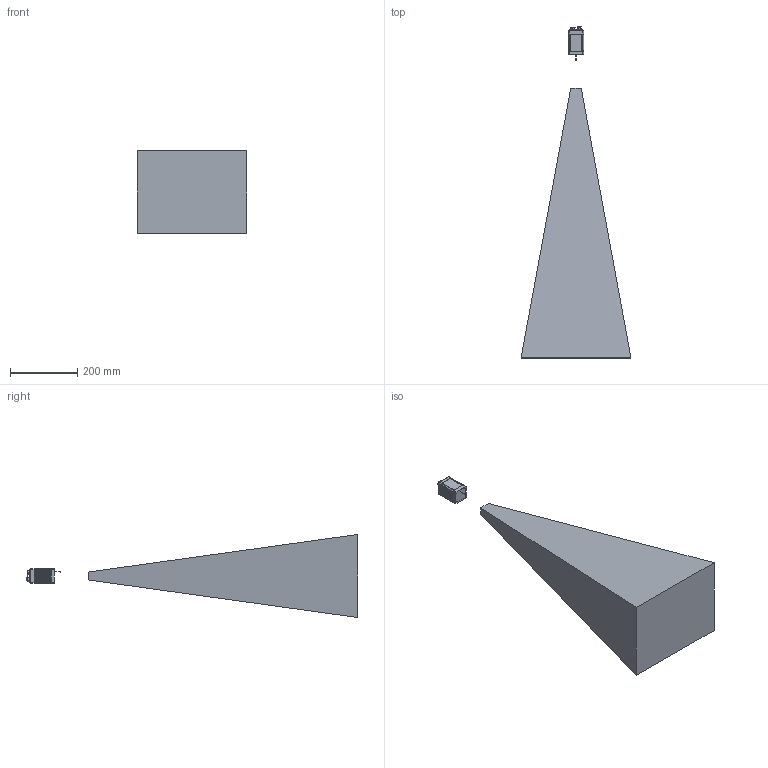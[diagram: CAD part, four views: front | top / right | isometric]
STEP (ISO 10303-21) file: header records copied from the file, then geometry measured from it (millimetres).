
FILE_DESCRIPTION(/* description */ (''),/* implementation_level */ '2;1');
FILE_NAME(/* name */ 'VISOR V50 XE-Medium.stp',/* time_stamp */ '2024-03-13T07:52:17+01:00',/* author */ ('SensoPart'),/* organization */ ('SensoPart'),/* preprocessor_version */ 'ST-DEVELOPER v19.2',/* originating_system */ 'Autodesk Inventor 2023',/* authorisation */ '');
FILE_SCHEMA (('AUTOMOTIVE_DESIGN { 1 0 10303 214 3 1 1 }'));
Length unit declared in the file: millimetre
Products named in the file (1): GH-ENG-0044896_Vereinfachen_1
Bounding box: 325.7 x 984.35 x 246.1 mm (x, y, z)
Volume: 23767703.4 mm3; surface area: 612012 mm2
Topology: 3 solids, 3 shells, 1051 faces, 2872 edges, 1930 vertices
Faces by surface type: plane 612, bspline 259, cylinder 147, cone 29, sphere 4
Full cylindrical faces by diameter (mm): 0.6 x12, 1 x1, 1.05 x8, 1.1 x2, 8.3 x1, 9.45 x1, 9.6 x1, 10.9 x1, 10.95 x2, 12 x2, 18 x3
Entity records: 43214 total; most frequent: CARTESIAN_POINT 17325, ORIENTED_EDGE 5742, DIRECTION 4042, EDGE_CURVE 2871, VERTEX_POINT 1929, LINE 1776, VECTOR 1776, EDGE_LOOP 1168
